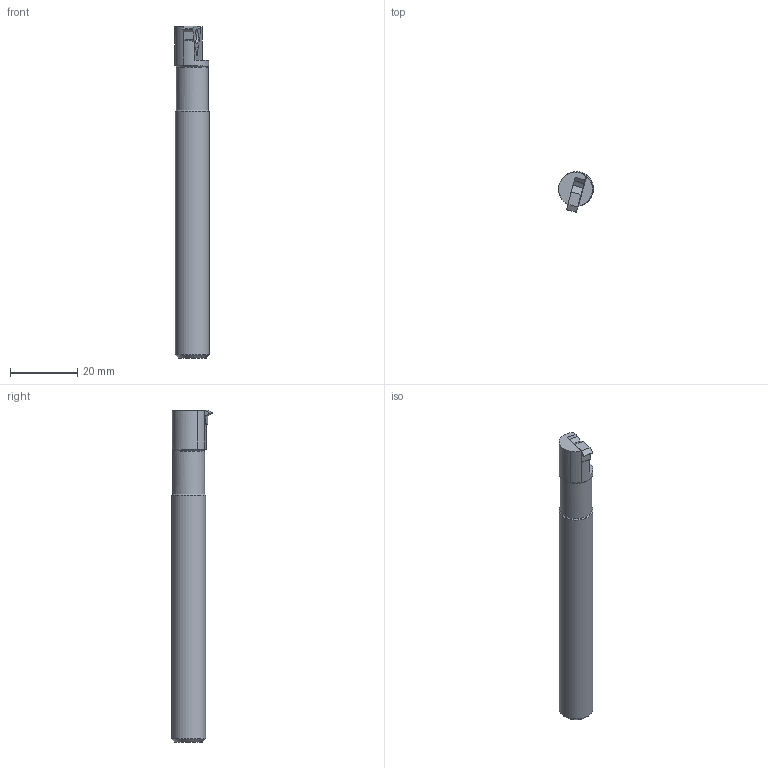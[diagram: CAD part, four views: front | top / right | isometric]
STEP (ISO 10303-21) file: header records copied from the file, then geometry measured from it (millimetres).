
FILE_DESCRIPTION (( 'STEP AP203' ), '1' );
FILE_NAME ('IRH0375DN-11.STEP', '2020-11-09T01:50:55', ( '' ), ( '' ), 'SwSTEP 2.0', 'SolidWorks 2015', '' );
FILE_SCHEMA (( 'CONFIG_CONTROL_DESIGN' ));
Length unit declared in the file: millimetre
Products named in the file (4): IRM11_ル遽; IRH0375DN-11_ル遽; IRH0375DN-11
Assembly tree (3 placements, depth 3):
  IRH0375DN-11
    IRH0375DN-11
      IRH0375DN-11_ル遽
      IRM11_ル遽
Bounding box: 10.35 x 12.19 x 99 mm (x, y, z)
Volume: 7619.5 mm3; surface area: 3447.3 mm2
Topology: 2 solids, 2 shells, 33 faces, 82 edges, 53 vertices
Faces by surface type: plane 21, cylinder 8, cone 4
Full cylindrical faces by diameter (mm): 3.25 x1, 9.525 x1, 10.16 x1
Entity records: 1410 total; most frequent: CARTESIAN_POINT 243, DIRECTION 166, ORIENTED_EDGE 148, EDGE_CURVE 74, AXIS2_PLACEMENT_3D 58, VERTEX_POINT 51, LINE 50, VECTOR 50
